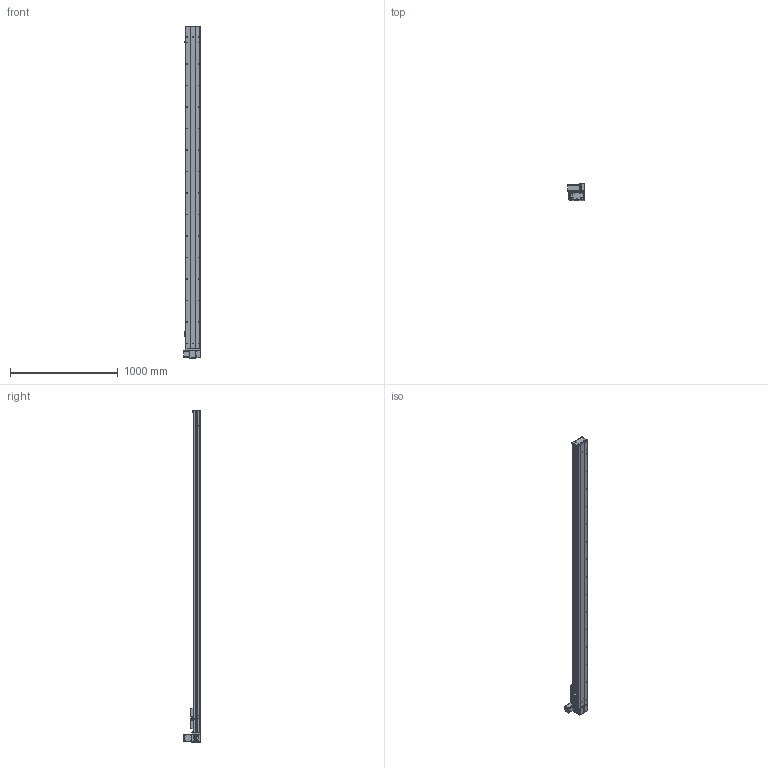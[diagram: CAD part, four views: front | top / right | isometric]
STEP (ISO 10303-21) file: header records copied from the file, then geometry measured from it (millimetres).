
FILE_DESCRIPTION (( 'STEP AP203' ), '1' );
FILE_NAME ('Y135CB-D90-S2700-UL-P400W.STEP', '2020-02-18T08:09:53', ( '微软用户' ), ( '微软中国' ), 'SwSTEP 2.0', 'SolidWorks 2017', '' );
FILE_SCHEMA (( 'CONFIG_CONTROL_DESIGN' ));
Length unit declared in the file: millimetre
Products named in the file (18): Y135CB-D90-S2700-UL-P400W; 135CB--詩湍-CE; 135CB---遴掛极.-; Y100-135俋离換覜ん--; 35CB---喘謫眊楊擘啣; Y135C-陔俋离換覜結え-; 0B-埴倛裔啣; 5C--俋欶; 0B-源倛裔啣; C-雄赽釱--; 0B-萇儂楊擘啣; Y10B-耜蚾蟀諉啣----; san松下电机400不带刹车----; 00B-俋欶BM--; 5CB --掛极耜裔啣-; Y10B--々湍喘謫眊--666; C-詩湍揤踡え-陔; Y135CB-耜裔
Assembly tree (21 placements, depth 2):
  Y135CB-D90-S2700-UL-P400W
    Y135CB-耜裔
    135CB---遴掛极.-
    35CB---喘謫眊楊擘啣
    0B-埴倛裔啣
    0B-源倛裔啣
    0B-萇儂楊擘啣
    san松下电机400不带刹车----
    5CB --掛极耜裔啣-  x2
    C-詩湍揤踡え-陔  x2
    135CB--詩湍-CE
    Y100-135俋离換覜ん--  x3
    Y135C-陔俋离換覜結え-
    5C--俋欶
    C-雄赽釱--
    Y10B-耜蚾蟀諉啣----
    00B-俋欶BM--
    Y10B--々湍喘謫眊--666
Bounding box: 157 x 158.7 x 3088 mm (x, y, z)
Volume: 8801087.9 mm3; surface area: 3488559.6 mm2
Topology: 21 solids, 21 shells, 981 faces, 2689 edges, 1782 vertices
Faces by surface type: cylinder 509, plane 456, cone 16
Entity records: 31167 total; most frequent: CARTESIAN_POINT 5208, DIRECTION 5181, ORIENTED_EDGE 4854, EDGE_CURVE 2427, AXIS2_PLACEMENT_3D 1903, VERTEX_POINT 1610, LINE 1375, VECTOR 1375
